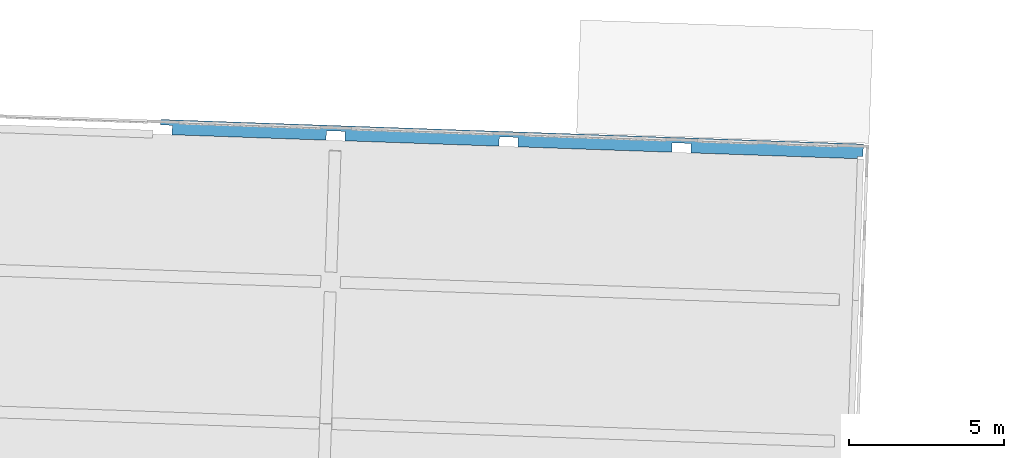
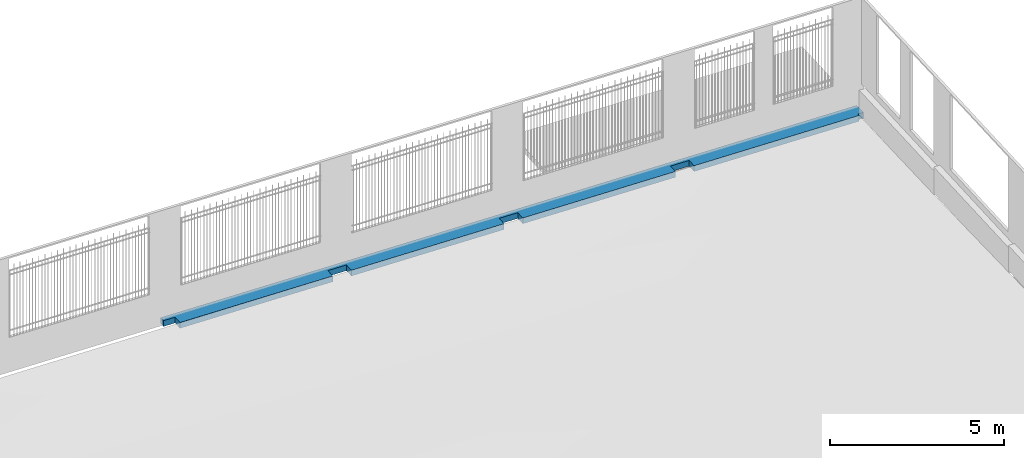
# One storey, part 12 of 17: 1 beam.
"""IFC2X3 building model written with IfcOpenShell, lengths in feet."""

from ifc_helpers import new_model, entity, si_unit, converted_unit, derived_unit, direction, frame, origin, place, context, subcontext, project, spatial, faceted_brep, material, element, save


model = new_model("IFC2X3")

# Units and contexts
model_context = context("Model", 3, precision=0.0001, world=origin(), true_north=direction((0.999390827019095, 0.0348994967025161)))
body_context = subcontext(model_context, "Body", "Model", "MODEL_VIEW")
ifc_project = project(units=[converted_unit("LENGTHUNIT", "FOOT", entity("IfcRatioMeasure", 0.3048), si_unit("LENGTHUNIT", "METRE"), dimensions=[1, 0, 0, 0, 0, 0, 0]), converted_unit("AREAUNIT", "SQUARE FOOT", entity("IfcRatioMeasure", 0.09290304), si_unit("AREAUNIT", "SQUARE_METRE"), dimensions=[2, 0, 0, 0, 0, 0, 0]), converted_unit("VOLUMEUNIT", "CUBIC FOOT", entity("IfcRatioMeasure", 0.028316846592), si_unit("VOLUMEUNIT", "CUBIC_METRE"), dimensions=[3, 0, 0, 0, 0, 0, 0]), converted_unit("PLANEANGLEUNIT", "DEGREE", entity("IfcRatioMeasure", 0.0174532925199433), si_unit("PLANEANGLEUNIT", "RADIAN"), dimensions=[0, 0, 0, 0, 0, 0, 0]), si_unit("MASSUNIT", "GRAM", prefix="KILO"), si_unit("TIMEUNIT", "SECOND"), si_unit("FREQUENCYUNIT", "HERTZ"), si_unit("THERMODYNAMICTEMPERATUREUNIT", "DEGREE_CELSIUS"), derived_unit("THERMALTRANSMITTANCEUNIT", [(si_unit("MASSUNIT", "GRAM", prefix="KILO"), 1), (si_unit("THERMODYNAMICTEMPERATUREUNIT", "KELVIN"), -1), (si_unit("TIMEUNIT", "SECOND"), -3)]), derived_unit("VOLUMETRICFLOWRATEUNIT", [(si_unit("LENGTHUNIT", "METRE"), 3), (si_unit("TIMEUNIT", "SECOND"), -1)]), si_unit("ELECTRICCURRENTUNIT", "AMPERE"), si_unit("ELECTRICVOLTAGEUNIT", "VOLT"), si_unit("POWERUNIT", "WATT"), si_unit("FORCEUNIT", "NEWTON"), si_unit("ILLUMINANCEUNIT", "LUX"), si_unit("LUMINOUSFLUXUNIT", "LUMEN"), si_unit("LUMINOUSINTENSITYUNIT", "CANDELA"), derived_unit("USERDEFINED", [(si_unit("MASSUNIT", "GRAM", prefix="KILO"), -1), (si_unit("LENGTHUNIT", "METRE"), -2), (si_unit("TIMEUNIT", "SECOND"), 3), (si_unit("LUMINOUSFLUXUNIT", "LUMEN"), 1)]), derived_unit("LINEARVELOCITYUNIT", [(si_unit("LENGTHUNIT", "METRE"), 1), (si_unit("TIMEUNIT", "SECOND"), -1)]), si_unit("PRESSUREUNIT", "PASCAL"), derived_unit("USERDEFINED", [(si_unit("LENGTHUNIT", "METRE"), -2), (si_unit("MASSUNIT", "GRAM", prefix="KILO"), 1), (si_unit("TIMEUNIT", "SECOND"), -2)])], contexts=[model_context])

# Site, building, storey
site_placement = place(None, frame((892.518771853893, 322.38689265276, 0.00393700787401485), z_axis=(0.0, 0.0, 1.0), x_axis=(0.0348994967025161, 0.999390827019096, 0.0)))
site = spatial("IfcSite", under=ifc_project, at=site_placement, Name="Default", CompositionType="ELEMENT")
building_placement = place(site_placement, origin())
building = spatial("IfcBuilding", under=site, at=building_placement, CompositionType="ELEMENT")
storey_placement = place(building_placement, frame((0.0, 0.0, 557.0)))
storey = spatial("IfcBuildingStorey", under=building, at=storey_placement, Name="Existing Garage - 1st Level", CompositionType="ELEMENT", Elevation=557.0)

# Beam
ifc_material = material(Name="Concrete - Cast-in-Place Concrete")
beam_placement = place(storey_placement, frame((222.927293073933, 235.847286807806, -3.2763670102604), z_axis=(0.0, 0.0, 1.0), x_axis=(0.0, -1.0, 0.0)))
element("IfcBeam", 1, at=beam_placement, inside=storey, material=ifc_material, Name="Concrete-Rectangular Beam:8\" x 19\"w", ObjectType="Concrete-Rectangular Beam:8\" x 19\"w", context=body_context, shape_type="Brep", body=[
    faceted_brep([(0.0, 1.58333333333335, 0.666666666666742), (-74.5, 1.58333333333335, 0.666666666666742), (-74.5, 1.0, 0.666666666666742), (-73.2499999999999, 1.0, 0.666666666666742), (-73.2499999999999, 0.0, 0.666666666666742), (-56.9166666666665, 0.0, 0.666666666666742), (-56.9166666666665, 1.0, 0.666666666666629), (-54.9166666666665, 1.0, 0.666666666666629), (-54.9166666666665, 0.0, 0.666666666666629), (-38.5833333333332, 0.0, 0.666666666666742), (-38.5833333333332, 1.0, 0.666666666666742), (-36.5833333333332, 1.0, 0.666666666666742), (-36.5833333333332, 0.0, 0.666666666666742), (-20.2499999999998, 0.0, 0.666666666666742), (-20.2499999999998, 1.0, 0.666666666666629), (-18.2499999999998, 1.0, 0.666666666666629), (-18.2499999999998, 0.0, 0.666666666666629), (-0.583333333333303, 0.0, 0.666666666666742), (-0.583333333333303, 0.250000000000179, 0.666666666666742), (0.0, 0.25000000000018, 0.666666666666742), (-18.2499999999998, 0.0, 0.0), (-0.583333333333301, 0.0, 0.0), (-74.5, 1.58333333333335, 0.0), (0.0, 1.58333333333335, 0.0), (0.0, 0.250000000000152, 0.0), (-0.583333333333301, 0.250000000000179, 0.0), (-18.2499999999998, 0.250000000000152, 0.0), (-18.2499999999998, 1.0, 0.0), (-20.2499999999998, 1.0, 0.0), (-20.2499999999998, 0.250000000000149, 0.0), (-20.2499999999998, 0.0, 0.0), (-36.5833333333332, 0.0, 0.0), (-36.5833333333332, 0.250000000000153, 0.0), (-36.5833333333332, 1.0, 0.0), (-38.5833333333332, 1.0, 0.0), (-38.5833333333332, 0.25000000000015, 0.0), (-38.5833333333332, 0.0, 0.0), (-54.9166666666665, 0.0, 0.0), (-54.9166666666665, 0.250000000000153, 0.0), (-54.9166666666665, 1.0, 0.0), (-56.9166666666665, 1.0, 0.0), (-56.9166666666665, 0.25000000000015, 0.0), (-56.9166666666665, 0.0, 0.0), (-73.2499999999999, 0.0, 0.0), (-73.2499999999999, 1.0, 0.0), (-74.5, 1.0, 0.0)], [[[0, 1, 2, 3, 4, 5, 6, 7, 8, 9, 10, 11, 12, 13, 14, 15, 16, 17, 18, 19]], [[16, 20, 21, 17]], [[22, 23, 24, 25, 21, 20, 26, 27, 28, 29, 30, 31, 32, 33, 34, 35, 36, 37, 38, 39, 40, 41, 42, 43, 44, 45]], [[1, 0, 23, 22]], [[23, 0, 19, 24]], [[44, 3, 2, 45]], [[4, 3, 44, 43]], [[39, 7, 6, 40]], [[8, 7, 39, 38, 37]], [[6, 5, 42, 41, 40]], [[4, 43, 42, 5]], [[33, 11, 10, 34]], [[12, 11, 33, 32, 31]], [[10, 9, 36, 35, 34]], [[8, 37, 36, 9]], [[27, 15, 14, 28]], [[16, 15, 27, 26, 20]], [[14, 13, 30, 29, 28]], [[12, 31, 30, 13]], [[25, 18, 17, 21]], [[18, 25, 24, 19]], [[1, 22, 45, 2]]]),
])

save(model, "model.ifc")
